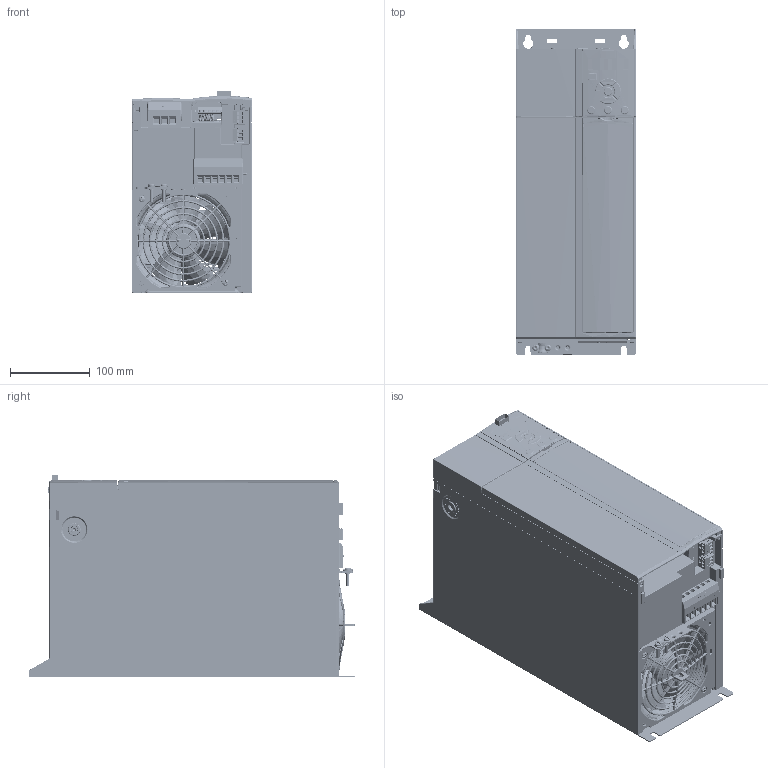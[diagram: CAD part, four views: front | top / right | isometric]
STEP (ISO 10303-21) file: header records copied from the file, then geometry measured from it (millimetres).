
FILE_DESCRIPTION((''),'2;1');
FILE_NAME('FC360_J5-IP20_ASM','2020-06-05T',('U381356'),('Danfoss Power Electronics'),'CREO PARAMETRIC BY PTC INC, 2018070','CREO PARAMETRIC BY PTC INC, 2018070','');
FILE_SCHEMA(('CONFIG_CONTROL_DESIGN','GEOMETRIC_VALIDATION_PROPERTIES_MIM'));
Products named in the file (107): MSBR-105_1_2_3; MSBR-104_1_2_3; MSBR-103_1_2_3; MSBR-102_1_2_3; MSBR-101_1_2_3; MSBR-100_1_2_3; MSBR-99_1_2_3; MSBR-98_1_2_3; MSBR-97_1_2_3; MSBR-96_1_2_3; MSBR-95_1_2_3; MSBR-94_1_2_3; MSBR-93_1_2_3; MSBR-92_1_2_3; MSBR-91_1_2_3; MSBR-90_1_2_3; MSBR-89_1_2_3; MSBR-88_1_2_3; MSBR-87_1_2_3; MSBR-86_1_2_3; MSBR-85_1_2_3; MSBR-84_1_2_3; MSBR-83_1_2_3; MSBR-82_1_2_3; MSBR-81_1_2_3; MSBR-80_1_2_3; MSBR-79_1_2_3; MSBR-78_1_2_3; MSBR-77_1_2_3; MSBR-76_1_2_3; MSBR-75_1_2_3; MSBR-74_1_2_3; MSBR-73_1_2_3; MSBR-72_1_2_3; MSBR-71_1_2_3; MSBR-70_1_2_3; MSBR-69_1_2_3; MSBR-68_1_2_3; MSBR-67_1_2_3; MSBR-66_1_2_3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
Assembly tree (106 placements, depth 2):
  FC360_J5-IP20_ASM
    MSBR-105_1_2_3
    MSBR-104_1_2_3
    MSBR-103_1_2_3
    MSBR-102_1_2_3
    MSBR-101_1_2_3
    MSBR-100_1_2_3
    MSBR-99_1_2_3
    MSBR-98_1_2_3
    MSBR-97_1_2_3
    MSBR-96_1_2_3
    MSBR-95_1_2_3
    MSBR-94_1_2_3
    MSBR-93_1_2_3
    MSBR-92_1_2_3
    MSBR-91_1_2_3
    MSBR-90_1_2_3
    MSBR-89_1_2_3
    MSBR-88_1_2_3
    MSBR-87_1_2_3
    MSBR-86_1_2_3
    MSBR-85_1_2_3
    MSBR-84_1_2_3
    MSBR-83_1_2_3
    MSBR-82_1_2_3
    MSBR-81_1_2_3
    MSBR-80_1_2_3
    MSBR-79_1_2_3
    MSBR-78_1_2_3
    MSBR-77_1_2_3
    MSBR-76_1_2_3
    MSBR-75_1_2_3
    MSBR-74_1_2_3
    MSBR-73_1_2_3
    MSBR-72_1_2_3
    MSBR-71_1_2_3
    MSBR-70_1_2_3
    MSBR-69_1_2_3
    MSBR-68_1_2_3
    MSBR-67_1_2_3
    MSBR-66_1_2_3
    MSBR-65_1_2_3
    MSBR-64_1_2_3
    MSBR-63_1_2_3
    MSBR-62_1_2_3
    MSBR-61_1_2_3
    MSBR-60_1_2_3
    MSBR-59_1_2_3
    MSBR-58_1_2_3
    MSBR-57_1_2_3
    MSBR-56_1_2_3
    MSBR-55_1_2_3
    MSBR-54_1_2_3
    MSBR-53_1_2_3
    MSBR-52_1_2_3
    MSBR-51_1_2_3
    MSBR-50_1_2_3
    MSBR-49_1_2_3
    MSBR-48_1_2_3
    MSBR-47_1_2_3
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Bounding box: 150 x 410 x 253.1 mm (x, y, z)
Volume: 3556789.2 mm3; surface area: 2626005.4 mm2
Topology: 106 solids, 145 shells, 37620 faces, 103438 edges, 66882 vertices
Faces by surface type: plane 26957, cylinder 6598, cone 1385, bspline 1140, torus 1086, sphere 402, extrusion 52
Entity records: 1422897 total; most frequent: CARTESIAN_POINT 375150, ORIENTED_EDGE 206462, DIRECTION 180671, EDGE_CURVE 103289, VECTOR 73033, LINE 72981, VERTEX_POINT 66876, AXIS2_PLACEMENT_3D 53819
